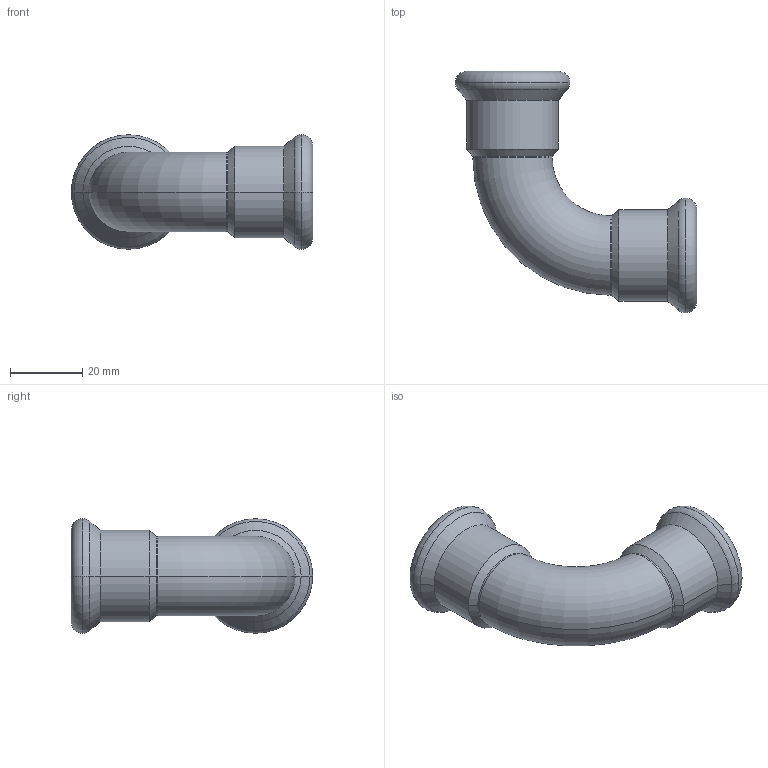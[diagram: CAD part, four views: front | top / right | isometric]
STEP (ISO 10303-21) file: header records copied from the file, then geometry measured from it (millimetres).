
FILE_DESCRIPTION(('CoCreate Modeling STEP Export'),'2;1');
FILE_NAME('C1408 22x22.stp','2014-11-07T16:43:33',(''),(''),'CoCreate Modeling STEP processor for AP214 (Solid Model)','CoCreate Modeling 17.00A 17-Jun-2010 (C) Parametric Technology GmbH','');
FILE_SCHEMA(('AUTOMOTIVE_DESIGN { 1 0 10303 214 1 1 1 1 }'));
Length unit declared in the file: millimetre
Products named in the file (2): C1408_22x22
Assembly tree (1 placements, depth 2):
  C1408_22x22
    C1408_22x22
Bounding box: 66.85 x 66.85 x 31.7 mm (x, y, z)
Volume: 12796.7 mm3; surface area: 13949.4 mm2
Topology: 1 solids, 1 shells, 46 faces, 95 edges, 55 vertices
Faces by surface type: cylinder 20, torus 12, cone 8, plane 6
Entity records: 1030 total; most frequent: ORIENTED_EDGE 190, DIRECTION 160, CARTESIAN_POINT 149, EDGE_CURVE 95, AXIS2_PLACEMENT_3D 66, VERTEX_POINT 55, EDGE_LOOP 52, FACE_OUTER_BOUND 46
